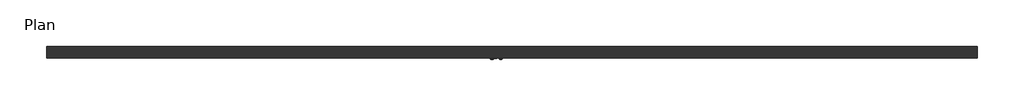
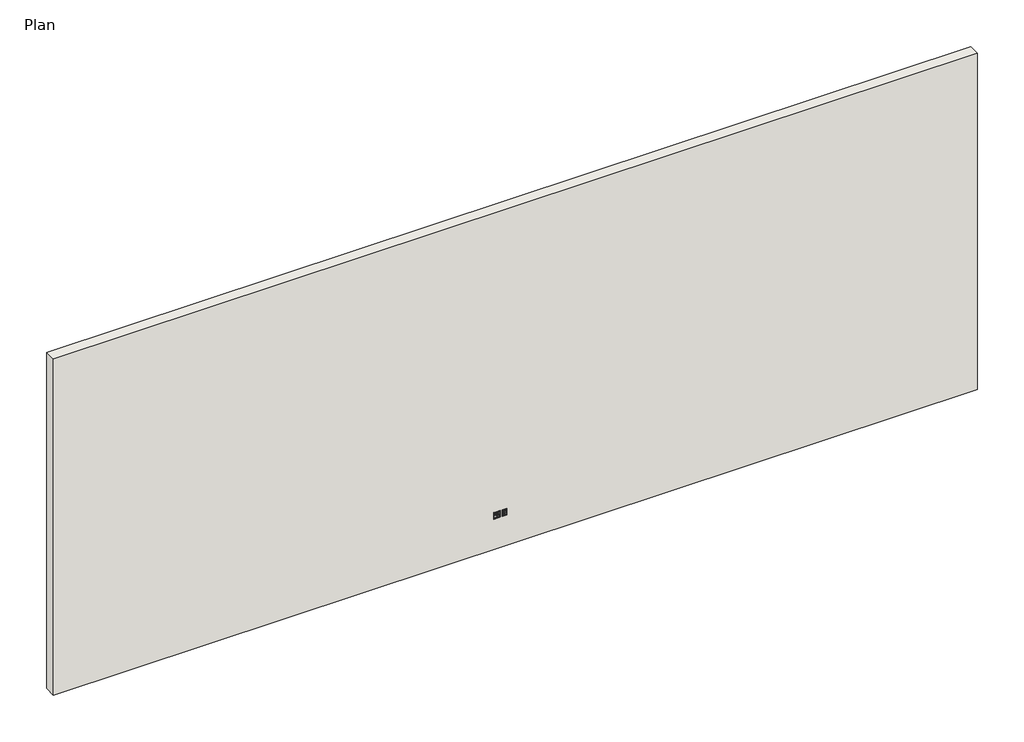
# One storey: 10 electric appliances, 1 wall.
"""IFC4 building model written with IfcOpenShell, lengths in millimetres."""

from ifc_helpers import new_model, si_unit, origin, origin_with_axes, place, context, project, spatial, polyline, outline, extrude, transform, mapped, element, save
from components import electric_appliance_1_port_615b6bee, electric_appliance_2_port_a5e45990, electric_appliance_2_port_angled_a2d9eddd, electric_appliance_2_port_angled_974c8690, blank_0_5_unit_high_0a404149, blank_1_unit_high_9cb51643, blank_1_5_unit_high_24d2255b, dual_gang_9d6b230c, single_gang_8845d006

model = new_model("IFC4")

# Units and contexts
model_context = context("Model", 3, world=origin())
ifc_project = project(units=[si_unit("LENGTHUNIT", "METRE", prefix="MILLI")], contexts=[model_context])

# Site, building, storey
site = spatial("IfcSite", under=ifc_project)
building = spatial("IfcBuilding", under=site)
storey = spatial("IfcBuildingStorey", under=building, Name="Plan", Elevation=0.0)

# Electric appliances
placement = place(None, origin())
electric_appliance_1_port_shape = electric_appliance_1_port_615b6bee(model_context)
element("IfcElectricAppliance", 1, ObjectType="Data_Device-Work_Area-Leviton-MOS-Adapter-QuickPort : 1 Port", at=placement, inside=storey, context=model_context, shape_type="MappedRepresentation", body=[
    mapped(electric_appliance_1_port_shape, transform((2409.9911875, -531.4596905, 625.9618333), x_axis=(1.0, 0.0, 0.0), y_axis=(0.0, 0.0, 1.0), z_axis=(0.0, -1.0, 0.0))),
])
element("IfcElectricAppliance", 2, ObjectType="Data_Device-Work_Area-Leviton-MOS-Adapter-QuickPort : 1 Port", at=placement, inside=storey, context=model_context, shape_type="MappedRepresentation", body=[
    mapped(electric_appliance_1_port_shape, transform((2513.8907426, -531.4596905, 613.6851667), x_axis=(1.0, 0.0, 0.0), y_axis=(0.0, 0.0, 1.0), z_axis=(0.0, -1.0, 0.0))),
])
electric_appliance_2_port_shape = electric_appliance_2_port_a5e45990(model_context)
element("IfcElectricAppliance", 3, ObjectType="Data_Device-Work_Area-Leviton-MOS-Adapter-QuickPort : 2 Port", at=placement, inside=storey, context=model_context, shape_type="MappedRepresentation", body=[
    mapped(electric_appliance_2_port_shape, transform((2409.9911875, -531.4596905, 601.4085), x_axis=(1.0, 0.0, 0.0), y_axis=(0.0, 0.0, 1.0), z_axis=(0.0, -1.0, 0.0))),
])
electric_appliance_2_port_angled_shape = electric_appliance_2_port_angled_a2d9eddd(model_context)
element("IfcElectricAppliance", 4, ObjectType="Data_Device-Work_Area-Leviton-MOS-Adapter-QuickPort : 2 Port, Angled", at=placement, inside=storey, context=model_context, shape_type="MappedRepresentation", body=[
    mapped(electric_appliance_2_port_angled_shape, transform((2362.3661875, -531.4596905, 625.9618333), x_axis=(1.0, 0.0, 0.0), y_axis=(0.0, 0.0, 1.0), z_axis=(0.0, -1.0, 0.0))),
])
electric_appliance_2_port_angled_2_shape = electric_appliance_2_port_angled_974c8690(model_context)
element("IfcElectricAppliance", 5, ObjectType="Data_Device-Work_Area-Leviton-MOS-Adapter-QuickPort : 2 Port, Angled", at=placement, inside=storey, context=model_context, shape_type="MappedRepresentation", body=[
    mapped(electric_appliance_2_port_angled_2_shape, transform((2467.8405426, -531.4596905, 593.2381667), x_axis=(-1.0, 0.0, 0.0), y_axis=(0.0, 0.0, -1.0), z_axis=(0.0, -1.0, 0.0))),
])
blank_0_5_unit_high_shape = blank_0_5_unit_high_0a404149(model_context)
element("IfcElectricAppliance", 6, ObjectType="Data_Device-Work_Area-Leviton-MOS-Adapter-QuickPort : Blank, 0.5 Unit High", at=placement, inside=storey, context=model_context, shape_type="MappedRepresentation", body=[
    mapped(blank_0_5_unit_high_shape, transform((2513.8907426, -531.4596905, 625.9618333), x_axis=(1.0, 0.0, 0.0), y_axis=(0.0, 0.0, 1.0), z_axis=(0.0, -1.0, 0.0))),
])
blank_1_unit_high_shape = blank_1_unit_high_9cb51643(model_context)
element("IfcElectricAppliance", 7, ObjectType="Data_Device-Work_Area-Leviton-MOS-Adapter-QuickPort : Blank, 1 Unit High", at=placement, inside=storey, context=model_context, shape_type="MappedRepresentation", body=[
    mapped(blank_1_unit_high_shape, transform((2409.9911875, -531.4596905, 576.8551667), x_axis=(1.0, 0.0, 0.0), y_axis=(0.0, 0.0, 1.0), z_axis=(0.0, -1.0, 0.0))),
])
blank_1_5_unit_high_shape = blank_1_5_unit_high_24d2255b(model_context)
element("IfcElectricAppliance", 8, ObjectType="Data_Device-Work_Area-Leviton-MOS-Adapter-QuickPort : Blank, 1.5 Unit High", at=placement, inside=storey, context=model_context, shape_type="MappedRepresentation", body=[
    mapped(blank_1_5_unit_high_shape, transform((2362.3661875, -531.4596905, 589.1318333), x_axis=(1.0, 0.0, 0.0), y_axis=(0.0, 0.0, 1.0), z_axis=(0.0, -1.0, 0.0))),
])
dual_gang_shape = dual_gang_9d6b230c(model_context)
element("IfcElectricAppliance", 9, ObjectType="Data_Device-Work_Area-Leviton-MOS-Wallplate : Dual Gang", at=placement, inside=storey, context=model_context, shape_type="MappedRepresentation", body=[
    mapped(dual_gang_shape, transform((2386.1786875, -525.1096905, 601.4085), x_axis=(1.0, 0.0, 0.0), y_axis=(0.0, 0.0, 1.0), z_axis=(0.0, -1.0, 0.0))),
])
single_gang_shape = single_gang_8845d006(model_context)
element("IfcElectricAppliance", 10, ObjectType="Data_Device-Work_Area-Leviton-MOS-Wallplate : Single Gang", at=placement, inside=storey, context=model_context, shape_type="MappedRepresentation", body=[
    mapped(single_gang_shape, transform((2513.8907426, -525.1096905, 601.4085), x_axis=(1.0, 0.0, 0.0), y_axis=(0.0, 0.0, 1.0), z_axis=(0.0, -1.0, 0.0))),
])

# Wall
element("IfcWall", 11, ObjectType="Wall 1", at=placement, inside=storey, context=model_context, shape_type="SweptSolid", body=[
    extrude(outline(polyline([(10606.2648202, -525.1096905), (-5243.3351798, -525.1096905), (-5243.3351798, -321.9096905), (10606.2648202, -321.9096905), (10606.2648202, -525.1096905)])), origin_with_axes(), (0.0, 0.0, 1.0), 6096.0),
])

save(model, "model.ifc")
